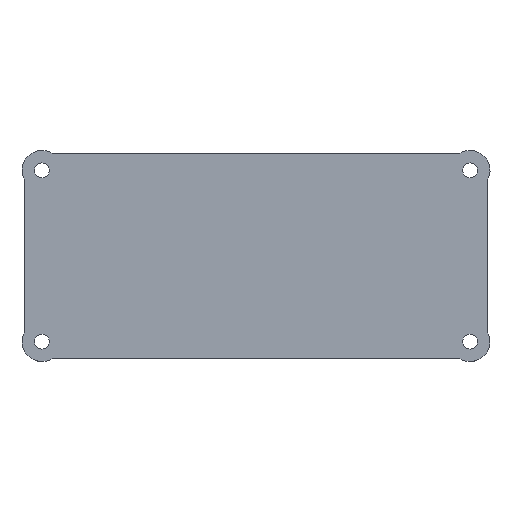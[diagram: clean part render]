
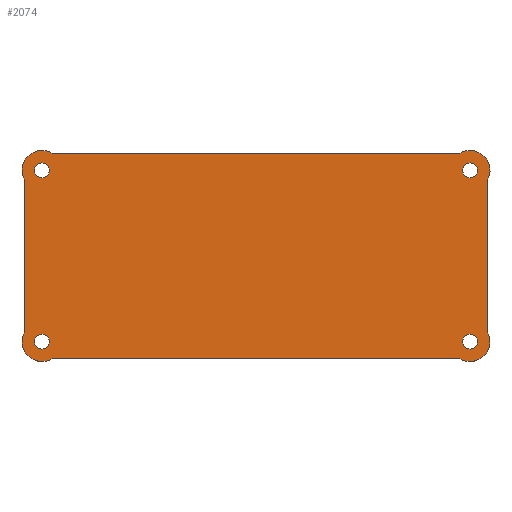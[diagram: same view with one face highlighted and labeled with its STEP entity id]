
A CAD part, top view. The second image highlights one B-rep face of the part: STEP entity #2074.
In plain terms, the highlighted planar face has unit normal (0, 0, 1).
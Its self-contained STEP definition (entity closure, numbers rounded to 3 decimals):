
#60=FACE_BOUND('',#277,.T.);
#61=FACE_BOUND('',#278,.T.);
#62=FACE_BOUND('',#279,.T.);
#63=FACE_BOUND('',#280,.T.);
#86=PLANE('',#2240);
#149=FACE_OUTER_BOUND('',#276,.T.);
#276=EDGE_LOOP('',(#1433,#1434,#1435,#1436,#1437,#1438,#1439,#1440,#1441));
#277=EDGE_LOOP('',(#1442));
#278=EDGE_LOOP('',(#1443));
#279=EDGE_LOOP('',(#1444));
#280=EDGE_LOOP('',(#1445));
#415=LINE('',#3140,#587);
#420=LINE('',#3155,#592);
#426=LINE('',#3179,#598);
#430=LINE('',#3189,#602);
#432=LINE('',#3194,#604);
#587=VECTOR('',#2478,10.);
#592=VECTOR('',#2491,10.);
#598=VECTOR('',#2517,10.);
#602=VECTOR('',#2529,10.);
#604=VECTOR('',#2533,10.);
#755=CIRCLE('',#2212,1.3);
#757=CIRCLE('',#2215,1.3);
#760=CIRCLE('',#2220,3.5);
#762=CIRCLE('',#2224,3.5);
#763=CIRCLE('',#2226,1.3);
#765=CIRCLE('',#2229,1.3);
#768=CIRCLE('',#2234,3.5);
#770=CIRCLE('',#2239,3.5);
#873=VERTEX_POINT('',#3122);
#875=VERTEX_POINT('',#3128);
#879=VERTEX_POINT('',#3137);
#880=VERTEX_POINT('',#3139);
#882=VERTEX_POINT('',#3145);
#885=VERTEX_POINT('',#3152);
#886=VERTEX_POINT('',#3154);
#887=VERTEX_POINT('',#3161);
#889=VERTEX_POINT('',#3167);
#893=VERTEX_POINT('',#3176);
#894=VERTEX_POINT('',#3178);
#896=VERTEX_POINT('',#3184);
#898=VERTEX_POINT('',#3193);
#1071=EDGE_CURVE('',#873,#873,#755,.T.);
#1074=EDGE_CURVE('',#875,#875,#757,.T.);
#1079=EDGE_CURVE('',#879,#880,#415,.T.);
#1083=EDGE_CURVE('',#882,#879,#760,.T.);
#1086=EDGE_CURVE('',#885,#886,#420,.T.);
#1089=EDGE_CURVE('',#880,#885,#762,.T.);
#1090=EDGE_CURVE('',#887,#887,#763,.T.);
#1093=EDGE_CURVE('',#889,#889,#765,.T.);
#1098=EDGE_CURVE('',#894,#893,#426,.T.);
#1101=EDGE_CURVE('',#896,#894,#768,.T.);
#1104=EDGE_CURVE('',#896,#882,#430,.T.);
#1106=EDGE_CURVE('',#898,#886,#432,.T.);
#1109=EDGE_CURVE('',#893,#898,#770,.T.);
#1433=ORIENTED_EDGE('',*,*,#1109,.T.);
#1434=ORIENTED_EDGE('',*,*,#1106,.T.);
#1435=ORIENTED_EDGE('',*,*,#1086,.F.);
#1436=ORIENTED_EDGE('',*,*,#1089,.F.);
#1437=ORIENTED_EDGE('',*,*,#1079,.F.);
#1438=ORIENTED_EDGE('',*,*,#1083,.F.);
#1439=ORIENTED_EDGE('',*,*,#1104,.F.);
#1440=ORIENTED_EDGE('',*,*,#1101,.T.);
#1441=ORIENTED_EDGE('',*,*,#1098,.T.);
#1442=ORIENTED_EDGE('',*,*,#1071,.F.);
#1443=ORIENTED_EDGE('',*,*,#1074,.F.);
#1444=ORIENTED_EDGE('',*,*,#1093,.T.);
#1445=ORIENTED_EDGE('',*,*,#1090,.T.);
#2074=ADVANCED_FACE('',(#149,#60,#61,#62,#63),#86,.T.);
#2212=AXIS2_PLACEMENT_3D('',#3123,#2462,#2463);
#2215=AXIS2_PLACEMENT_3D('',#3129,#2469,#2470);
#2220=AXIS2_PLACEMENT_3D('',#3147,#2485,#2486);
#2224=AXIS2_PLACEMENT_3D('',#3159,#2497,#2498);
#2226=AXIS2_PLACEMENT_3D('',#3162,#2501,#2502);
#2229=AXIS2_PLACEMENT_3D('',#3168,#2508,#2509);
#2234=AXIS2_PLACEMENT_3D('',#3185,#2523,#2524);
#2239=AXIS2_PLACEMENT_3D('',#3198,#2539,#2540);
#2240=AXIS2_PLACEMENT_3D('',#3199,#2541,#2542);
#2462=DIRECTION('center_axis',(0.,0.,1.));
#2463=DIRECTION('ref_axis',(1.,0.,0.));
#2469=DIRECTION('center_axis',(0.,0.,1.));
#2470=DIRECTION('ref_axis',(1.,0.,0.));
#2478=DIRECTION('',(1.,0.,0.));
#2485=DIRECTION('center_axis',(0.,0.,-1.));
#2486=DIRECTION('ref_axis',(-0.857,-0.515,0.));
#2491=DIRECTION('',(0.,-1.,0.));
#2497=DIRECTION('center_axis',(0.,0.,-1.));
#2498=DIRECTION('ref_axis',(-0.515,0.857,0.));
#2501=DIRECTION('center_axis',(0.,0.,-1.));
#2502=DIRECTION('ref_axis',(1.,0.,0.));
#2508=DIRECTION('center_axis',(0.,0.,-1.));
#2509=DIRECTION('ref_axis',(1.,0.,0.));
#2517=DIRECTION('',(1.,0.,0.));
#2523=DIRECTION('center_axis',(0.,0.,1.));
#2524=DIRECTION('ref_axis',(-0.857,0.515,0.));
#2529=DIRECTION('',(0.,1.,0.));
#2533=DIRECTION('',(0.,1.,0.));
#2539=DIRECTION('center_axis',(0.,0.,1.));
#2540=DIRECTION('ref_axis',(-0.515,-0.857,0.));
#2541=DIRECTION('center_axis',(0.,0.,1.));
#2542=DIRECTION('ref_axis',(1.,0.,0.));
#3122=CARTESIAN_POINT('',(48.724,22.912,5.5));
#3123=CARTESIAN_POINT('Origin',(50.024,22.912,5.5));
#3128=CARTESIAN_POINT('',(-26.269,22.911,5.5));
#3129=CARTESIAN_POINT('Origin',(-24.969,22.911,5.5));
#3137=CARTESIAN_POINT('',(-23.166,25.912,5.5));
#3139=CARTESIAN_POINT('',(48.222,25.912,5.5));
#3140=CARTESIAN_POINT('',(48.222,25.912,5.5));
#3145=CARTESIAN_POINT('',(-27.969,21.108,5.5));
#3147=CARTESIAN_POINT('Origin',(-24.969,22.911,5.5));
#3152=CARTESIAN_POINT('',(53.024,21.109,5.5));
#3154=CARTESIAN_POINT('',(53.024,7.912,5.5));
#3155=CARTESIAN_POINT('',(53.024,21.109,5.5));
#3159=CARTESIAN_POINT('Origin',(50.024,22.912,5.5));
#3161=CARTESIAN_POINT('',(48.724,-7.087,5.5));
#3162=CARTESIAN_POINT('Origin',(50.024,-7.087,5.5));
#3167=CARTESIAN_POINT('',(-26.269,-7.087,5.5));
#3168=CARTESIAN_POINT('Origin',(-24.969,-7.087,5.5));
#3176=CARTESIAN_POINT('',(48.222,-10.087,5.5));
#3178=CARTESIAN_POINT('',(-23.166,-10.087,5.5));
#3179=CARTESIAN_POINT('',(48.222,-10.087,5.5));
#3184=CARTESIAN_POINT('',(-27.969,-5.284,5.5));
#3185=CARTESIAN_POINT('Origin',(-24.969,-7.087,5.5));
#3189=CARTESIAN_POINT('',(-27.969,7.912,5.5));
#3193=CARTESIAN_POINT('',(53.024,-5.284,5.5));
#3194=CARTESIAN_POINT('',(53.024,-5.284,5.5));
#3198=CARTESIAN_POINT('Origin',(50.024,-7.087,5.5));
#3199=CARTESIAN_POINT('Origin',(12.528,-1.337,5.5));
